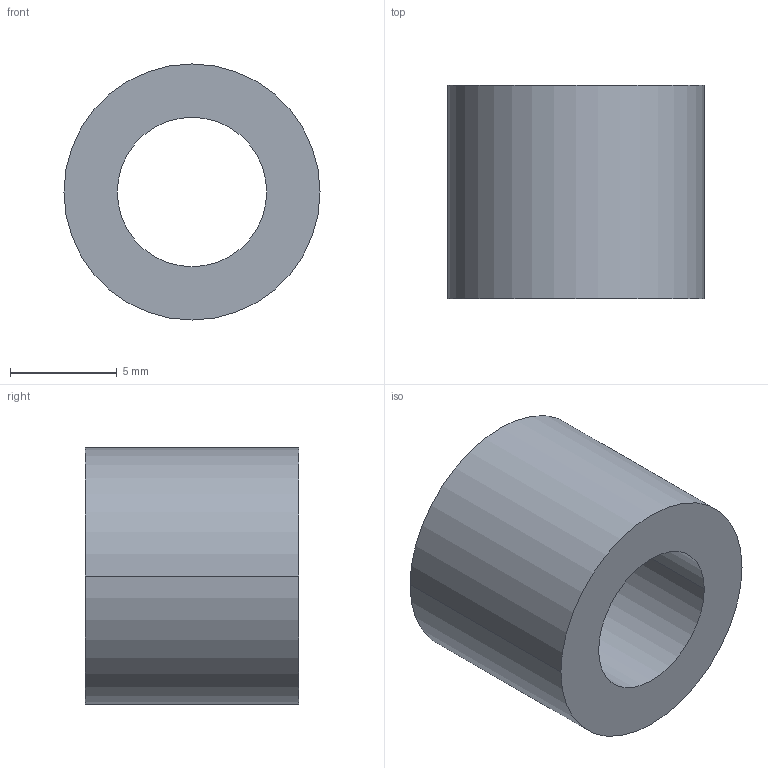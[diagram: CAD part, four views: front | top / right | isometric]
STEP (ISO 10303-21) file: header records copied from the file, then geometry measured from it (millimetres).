
FILE_DESCRIPTION (( 'STEP AP203' ), '1' );
FILE_NAME ('30800.WPP12D7.0.step', '2019-01-23T22:27:00', ( '' ), ( '' ), 'SwSTEP 2.0', 'SolidWorks 2017', '' );
FILE_SCHEMA (( 'CONFIG_CONTROL_DESIGN' ));
Length unit declared in the file: millimetre
Products named in the file (1): 30800.WPP12D7.0
Bounding box: 12 x 10 x 12 mm (x, y, z)
Volume: 734.5 mm3; surface area: 733 mm2
Topology: 1 solids, 1 shells, 8 faces, 16 edges, 10 vertices
Faces by surface type: cylinder 4, torus 2, plane 2
Entity records: 297 total; most frequent: DIRECTION 46, CARTESIAN_POINT 35, ORIENTED_EDGE 32, AXIS2_PLACEMENT_3D 21, EDGE_CURVE 16, CIRCLE 12, EDGE_LOOP 10, VERTEX_POINT 10
